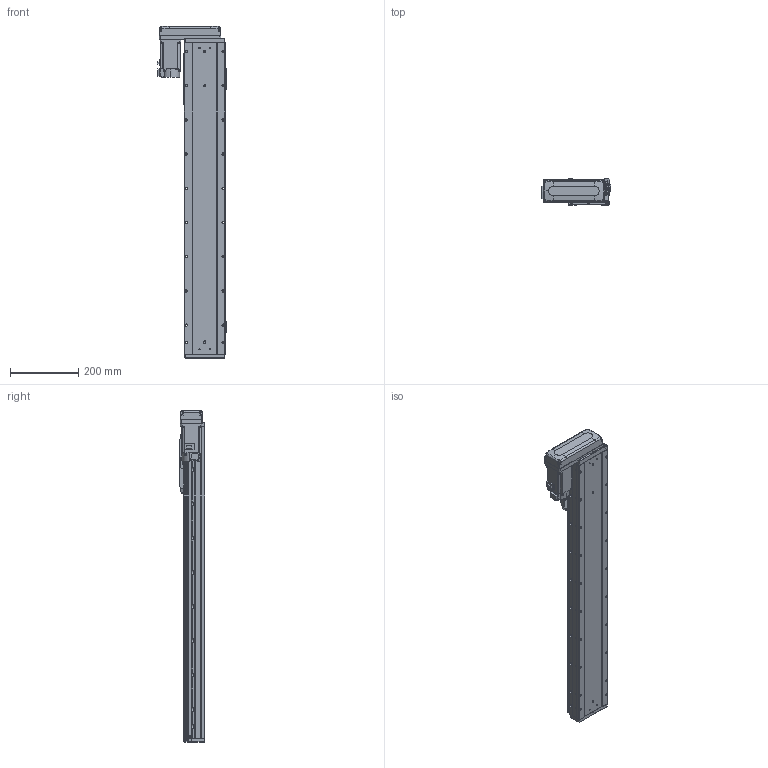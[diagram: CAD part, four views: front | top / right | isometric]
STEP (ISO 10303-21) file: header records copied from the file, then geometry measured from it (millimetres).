
FILE_DESCRIPTION (( 'STEP AP203' ), '1' );
FILE_NAME ('GTH12-700-BR-M40-C4.step', '2025-07-16T03:45:07', ( '' ), ( '' ), 'SwSTEP 2.0', 'SolidWorks 2023', '' );
FILE_SCHEMA (( 'CONFIG_CONTROL_DESIGN' ));
Length unit declared in the file: millimetre
Products named in the file (18): GBT 70.3-M3×8; GTH80-028; GTH120-013; GTH120-027-1_GTH120-027-2; GTH80-022; GBT 70.1-M5×16; GTH120-004; hg-kn43j_-s100_; GTH50-023; GTH120-003; GBT 70.1-M3×6; GBT96.1-2002 3×0.8; BTH-M3X5X6; GTH120-006; GTH12-700-BR-M40-C4; CTHA86-033_M40B; GTH50-024; GTH120-001_700
Assembly tree (59 placements, depth 2):
  GTH12-700-BR-M40-C4
    GTH120-001_700
    GTH120-003
    GTH120-006
    GTH120-004
    GTH120-013
    GBT 70.1-M3×6  x14
    GBT 70.1-M5×16  x10
    GBT 70.3-M3×8  x4
    GTH80-022
    GTH80-028  x2
    GTH50-023  x3
    GTH50-024  x3
    GBT96.1-2002 3×0.8  x6
    BTH-M3X5X6  x8
    hg-kn43j_-s100_
    CTHA86-033_M40B
    GTH120-027-1_GTH120-027-2
Bounding box: 203.5 x 76 x 970.5 mm (x, y, z)
Volume: 7178744.1 mm3; surface area: 658258.7 mm2
Topology: 61 solids, 61 shells, 2476 faces, 5783 edges, 3549 vertices
Faces by surface type: plane 1272, cylinder 720, cone 296, torus 174, sphere 8, bspline 6
Entity records: 46597 total; most frequent: CARTESIAN_POINT 7894, DIRECTION 7723, ORIENTED_EDGE 7176, EDGE_CURVE 3588, AXIS2_PLACEMENT_3D 2699, VECTOR 2325, LINE 2325, VERTEX_POINT 2270
